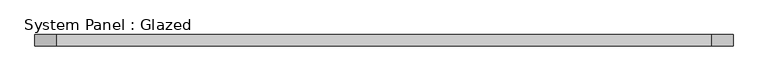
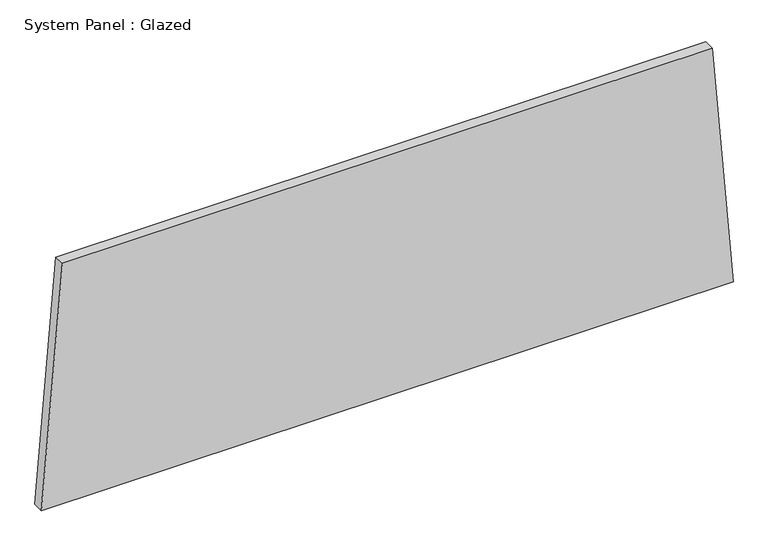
"""IFC4 building model written with IfcOpenShell, lengths in millimetres: plate geometry, System Panel : Glazed."""

from ifc_helpers import new_model, si_unit, frame, origin, place, context, project, spatial, polyline, outline, extrude, source, transform, mapped, element, save


def system_panel_glazed_ac948568(model_context):
    return source(origin(), model_context, "Body", "SweptSolid", [
        extrude(outline(polyline([(0.0, -792.5357107), (0.0, 792.5357107), (582.1199553, 744.3237307), (582.1199553, -744.3237307), (0.0, -792.5357107)])), frame((0.0, 19.05, 0.0), z_axis=(0.0, 1.0, 0.0), x_axis=(0.0, 0.0, 1.0)), (0.0, 0.0, 1.0), 25.4),
    ])


if __name__ == "__main__":
    model = new_model("IFC4")
    model_context = context("Model", 3, world=origin())
    ifc_project = project(units=[si_unit("LENGTHUNIT", "METRE", prefix="MILLI")], contexts=[model_context])
    site = spatial("IfcSite", under=ifc_project)
    building = spatial("IfcBuilding", under=site)
    placement = place(None, origin())
    system_panel_glazed_shape = system_panel_glazed_ac948568(model_context)
    element("IfcPlate", 1, ObjectType="System Panel : Glazed", at=placement, inside=building, context=model_context, shape_type="MappedRepresentation", body=[
        mapped(system_panel_glazed_shape, transform((0.0, 0.0, 0.0), x_axis=(1.0, 0.0, 0.0), y_axis=(0.0, 1.0, 0.0), z_axis=(0.0, 0.0, 1.0))),
    ])
    save(model, "model.ifc")
